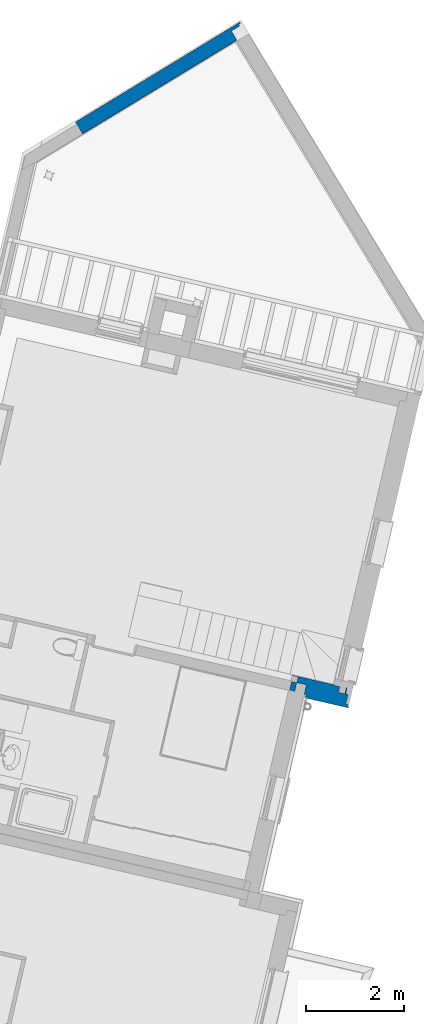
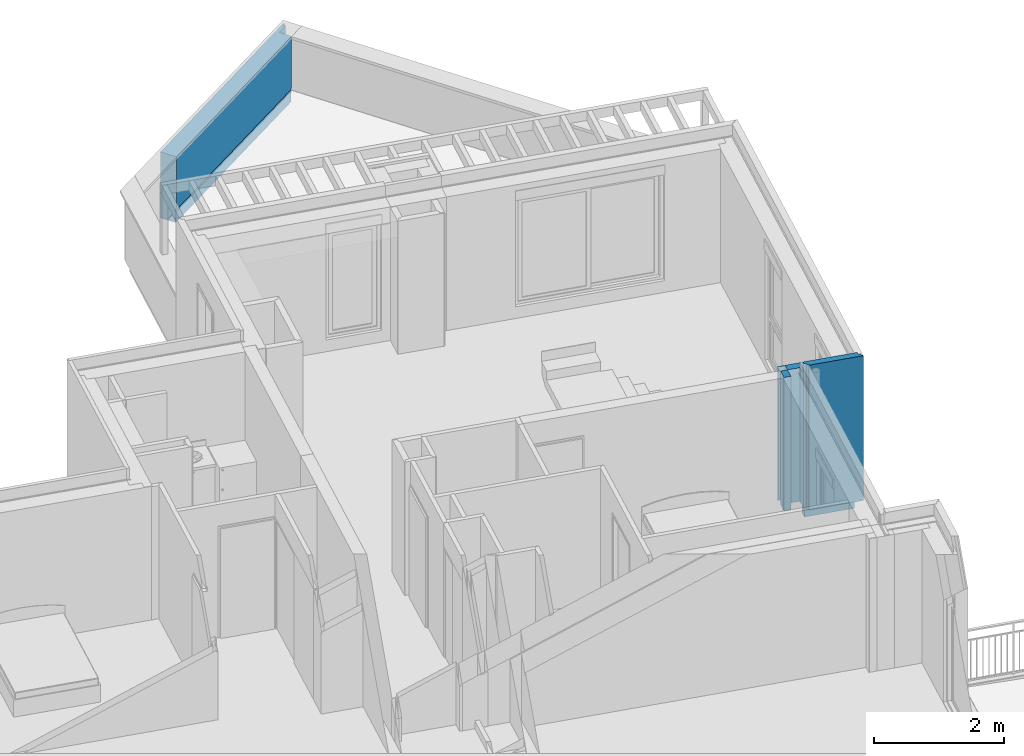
# One storey, part 35 of 62: 3 walls.
"""IFC2X3 building model written with IfcOpenShell, lengths in metres."""

import ifcopenshell
import ifcopenshell.guid

model = None  # the IFC model being written
_history = None  # IfcOwnerHistory: only IFC2X3 demands one
_inside = {}  # id of a spatial element -> (the spatial element, [elements in it])
_under = {}  # id of a project, library or spatial element -> (it, [spatial elements below it])
_declared = {}  # id of a project -> (the project, [libraries it declares])
_typed = {}  # id of a type object -> (the type object, [elements of that type])
_made_of = {}  # id of a material, layer set ... -> (it, [elements and type objects made of it])


def new_model(schema):
    """Start an empty IFC model of exactly this schema.

    Asked for "IFC4X3", IfcOpenShell would pick the latest addendum, in which some entities
    have other attributes; the version numbers below select the first issue.
    IFC2X3 requires an IfcOwnerHistory on every rooted entity: one is made here for all.
    """
    global model, _history
    if schema == "IFC4X3":
        model = ifcopenshell.file(schema_version=(4, 3, 0, 0))
    else:
        model = ifcopenshell.file(schema=schema)
    _inside.clear()
    _under.clear()
    _declared.clear()
    _typed.clear()
    _made_of.clear()
    _history = None
    if model.schema == "IFC2X3":
        org = make("IfcOrganization", Name="unknown")
        user = make(
            "IfcPersonAndOrganization",
            ThePerson=make("IfcPerson", FamilyName="unknown"),
            TheOrganization=org,
        )
        app = make(
            "IfcApplication",
            ApplicationDeveloper=org,
            Version="unknown",
            ApplicationFullName="unknown",
            ApplicationIdentifier="unknown",
        )
        _history = make(
            "IfcOwnerHistory",
            OwningUser=user,
            OwningApplication=app,
            ChangeAction="ADDED",
            CreationDate=0,
        )
    return model


def make(cls, **values):
    """One entity of the class cls with the attributes given. An attribute that is None is left unset."""
    return model.create_entity(
        cls, **{name: value for name, value in values.items() if value is not None}
    )


def entity(cls, *values):
    """Any entity or typed value of the class cls, its attributes in the order of the schema. None: left unset."""
    e = model.create_entity(cls)
    for i, value in enumerate(values):
        if value is not None:
            e[i] = value
    return e


def rooted(cls, **values):
    """An entity with a GlobalId (a new one), such as an element, a storey or a relation."""
    return make(cls, GlobalId=ifcopenshell.guid.new(), OwnerHistory=_history, **values)


def si_unit(unit_type, name, prefix=None):
    """IfcSIUnit, for example si_unit("LENGTHUNIT", "METRE", prefix="MILLI")."""
    return make("IfcSIUnit", UnitType=unit_type, Prefix=prefix, Name=name)


def converted_unit(unit_type, name, factor, base, dimensions=None, offset=None):
    """IfcConversionBasedUnit, such as the inch: factor (a typed value) times the base unit."""
    return make(
        "IfcConversionBasedUnit"
        if offset is None
        else "IfcConversionBasedUnitWithOffset",
        ConversionOffset=offset,
        Dimensions=None
        if dimensions is None
        else entity("IfcDimensionalExponents", *dimensions),
        UnitType=unit_type,
        Name=name,
        ConversionFactor=make(
            "IfcMeasureWithUnit", ValueComponent=factor, UnitComponent=base
        ),
    )


def derived_unit(unit_type, elements):
    """IfcDerivedUnit: a product of units, each with its exponent."""
    return make(
        "IfcDerivedUnit",
        Elements=[
            make("IfcDerivedUnitElement", Unit=unit, Exponent=power)
            for unit, power in elements
        ],
        UnitType=unit_type,
    )


def money_unit(currency):
    """IfcMonetaryUnit."""
    return make("IfcMonetaryUnit", Currency=currency)


def assignment(units):
    """IfcUnitAssignment: the units of a project."""
    return None if units is None else make("IfcUnitAssignment", Units=units)


def point(xyz):
    """IfcCartesianPoint."""
    return None if xyz is None else make("IfcCartesianPoint", Coordinates=xyz)


def direction(xyz):
    """IfcDirection."""
    return None if xyz is None else make("IfcDirection", DirectionRatios=xyz)


def frame(location, z_axis=None, x_axis=None):
    """IfcAxis2Placement3D, a coordinate frame: its origin and axes. An axis left out is left unset."""
    return make(
        "IfcAxis2Placement3D",
        Location=point(location),
        Axis=direction(z_axis),
        RefDirection=direction(x_axis),
    )


def origin_with_axes():
    """The frame at (0, 0, 0) with the z axis (0, 0, 1) and the x axis (1, 0, 0) written out."""
    return frame((0.0, 0.0, 0.0), z_axis=(0.0, 0.0, 1.0), x_axis=(1.0, 0.0, 0.0))


def place(relative_to, where):
    """IfcLocalPlacement: puts the frame where relative to a parent placement (None: the world)."""
    return make(
        "IfcLocalPlacement", PlacementRelTo=relative_to, RelativePlacement=where
    )


def context(
    kind, dimensions, precision=None, world=None, true_north=None, identifier=None
):
    """IfcGeometricRepresentationContext, for example the 3D "Model" context."""
    return make(
        "IfcGeometricRepresentationContext",
        ContextIdentifier=identifier,
        ContextType=kind,
        CoordinateSpaceDimension=dimensions,
        Precision=precision,
        WorldCoordinateSystem=world,
        TrueNorth=true_north,
    )


def subcontext(parent, identifier, kind, view, scale=None):
    """IfcGeometricRepresentationSubContext, for example "Body" below "Model"."""
    return make(
        "IfcGeometricRepresentationSubContext",
        ContextIdentifier=identifier,
        ContextType=kind,
        ParentContext=parent,
        TargetScale=scale,
        TargetView=view,
    )


def project(units=None, contexts=None):
    """IfcProject with its units and contexts."""
    return rooted(
        "IfcProject",
        Name="project",
        RepresentationContexts=contexts,
        UnitsInContext=assignment(units),
    )


def spatial(cls, under=None, at=None, **own):
    """A site, building, storey or space (cls), placed at a placement, below another one or the project."""
    s = rooted(cls, ObjectPlacement=at, **own)
    if under is not None:
        _under.setdefault(under.id(), (under, []))[1].append(s)
    return s


def faces_of(points, faces, orient=None, outer=None):
    """IfcFace entities. A face is a list of loops; a loop is a list of indices into points, from 0.

    orient and outer hold one flag for each loop. By default every Orientation is true, the
    first loop of a face is its IfcFaceOuterBound and the others are IfcFaceBound.
    """
    made = []
    for i, loops in enumerate(faces):
        bounds = []
        for j, loop in enumerate(loops):
            is_outer = j == 0 if outer is None else outer[i][j]
            bounds.append(
                make(
                    "IfcFaceOuterBound" if is_outer else "IfcFaceBound",
                    Bound=make("IfcPolyLoop", Polygon=[points[k] for k in loop]),
                    Orientation=True if orient is None else orient[i][j],
                )
            )
        made.append(make("IfcFace", Bounds=bounds))
    return made


def faceted_brep(points, faces, orient=None, outer=None, voids=None):
    """IfcFacetedBrep: a solid bounded by flat faces; with voids (closed shells), ...WithVoids."""
    shared = [point(p) for p in points]
    hull = make("IfcClosedShell", CfsFaces=faces_of(shared, faces, orient, outer))
    if voids is None:
        return make("IfcFacetedBrep", Outer=hull)
    return make(
        "IfcFacetedBrepWithVoids",
        Outer=hull,
        Voids=[
            make(cls, CfsFaces=faces_of(shared, fs, o, b)) for cls, fs, o, b in voids
        ],
    )


def shape(context_of_items, identifier, shape_type, items):
    """IfcShapeRepresentation: the items that make up one representation, for example the "Body"."""
    return make(
        "IfcShapeRepresentation",
        ContextOfItems=context_of_items,
        RepresentationIdentifier=identifier,
        RepresentationType=shape_type,
        Items=items,
    )


def material(Name=None, Category=None):
    """IfcMaterial."""
    return make("IfcMaterial", Name=Name, Category=Category)


def material_list(materials):
    """IfcMaterialList."""
    return make("IfcMaterialList", Materials=materials)


def made_of(thing, what):
    """Note that an element or type object is made of a material, layer set ...; save() writes the relation."""
    if what is not None:
        _made_of.setdefault(what.id(), (what, []))[1].append(thing)
    return thing


def type_object(cls, material=None, **own):
    """A type object (cls), such as IfcWallType, which elements share."""
    return made_of(rooted(cls, **own), material)


def element(
    cls,
    number,
    at=None,
    inside=None,
    cuts=None,
    type_object=None,
    material=None,
    context=None,
    identifier="Body",
    shape_type=None,
    held_by="IfcProductDefinitionShape",
    body=None,
    shapes=None,
    **own,
):
    """One element of the class cls, such as IfcWall. Its Tag is "e" and its number.

    at: its placement. inside: the storey or other place that contains it. cuts: it is an
    opening in that element (IfcRelVoidsElement). A single representation is given by context,
    identifier, shape_type and body (its items); several are given by shapes. held_by: the class
    of the entity that holds the representations. save() writes the other relations.
    """
    e = rooted(cls, Tag="e%d" % number, ObjectPlacement=at, **own)
    if body is not None:
        shapes = [shape(context, identifier, shape_type, body)]
    if shapes is not None:
        e.Representation = make(held_by, Representations=shapes)
    if inside is not None:
        _inside.setdefault(inside.id(), (inside, []))[1].append(e)
    if cuts is not None:
        rooted(
            "IfcRelVoidsElement", RelatingBuildingElement=cuts, RelatedOpeningElement=e
        )
    if type_object is not None:
        _typed.setdefault(type_object.id(), (type_object, []))[1].append(e)
    return made_of(e, material)


def aggregate(whole, parts):
    """IfcRelAggregates: a whole, such as a stair, and the parts it consists of."""
    return rooted("IfcRelAggregates", RelatingObject=whole, RelatedObjects=parts)


def save(model, path):
    """Write the relations noted so far, then the file.

    IfcRelAggregates (storeys below a building ...), IfcRelContainedInSpatialStructure (elements
    in a storey), IfcRelDefinesByType, IfcRelAssociatesMaterial and IfcRelDeclares: one each for
    every whole, place, type object, material and project.
    """
    for whole, parts in _under.values():
        aggregate(whole, parts)
    for where, things in _inside.values():
        rooted(
            "IfcRelContainedInSpatialStructure",
            RelatedElements=things,
            RelatingStructure=where,
        )
    for kind, things in _typed.values():
        rooted("IfcRelDefinesByType", RelatedObjects=things, RelatingType=kind)
    for what, things in _made_of.values():
        rooted("IfcRelAssociatesMaterial", RelatedObjects=things, RelatingMaterial=what)
    for by, libraries in _declared.values():
        rooted("IfcRelDeclares", RelatingContext=by, RelatedDefinitions=libraries)
    model.write(path)


model = new_model("IFC2X3")

# Units and contexts
model_context = context("Model", 3, precision=1e-05, world=origin_with_axes(), true_north=direction((0.0, 1.0)))
body_context = subcontext(model_context, "Body", "Model", "MODEL_VIEW")
ifc_project = project(units=[si_unit("LENGTHUNIT", "METRE"), si_unit("AREAUNIT", "SQUARE_METRE"), si_unit("VOLUMEUNIT", "CUBIC_METRE"), converted_unit("PLANEANGLEUNIT", "DEGREE", entity("IfcPlaneAngleMeasure", 0.0174532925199), si_unit("PLANEANGLEUNIT", "RADIAN"), dimensions=[0, 0, 0, 0, 0, 0, 0]), si_unit("SOLIDANGLEUNIT", "STERADIAN"), money_unit("EUR"), converted_unit("TIMEUNIT", "Year", entity("IfcTimeMeasure", 31556926.0), si_unit("TIMEUNIT", "SECOND"), dimensions=[0, 0, 1, 0, 0, 0, 0]), si_unit("MASSUNIT", "GRAM", prefix="KILO"), si_unit("THERMODYNAMICTEMPERATUREUNIT", "DEGREE_CELSIUS"), si_unit("LUMINOUSINTENSITYUNIT", "LUMEN"), si_unit("ENERGYUNIT", "JOULE", prefix="MEGA"), derived_unit("THERMALCONDUCTANCEUNIT", [(si_unit("POWERUNIT", "WATT"), 1), (si_unit("LENGTHUNIT", "METRE"), -1), (si_unit("THERMODYNAMICTEMPERATUREUNIT", "KELVIN"), -1)]), derived_unit("SPECIFICHEATCAPACITYUNIT", [(si_unit("ENERGYUNIT", "JOULE"), 1), (si_unit("MASSUNIT", "GRAM", prefix="KILO"), -1), (si_unit("THERMODYNAMICTEMPERATUREUNIT", "KELVIN"), -1)]), derived_unit("MASSDENSITYUNIT", [(si_unit("MASSUNIT", "GRAM", prefix="KILO"), 1), (si_unit("VOLUMEUNIT", "CUBIC_METRE"), -1)])], contexts=[model_context])

# Site, building, storey
site_placement = place(None, origin_with_axes())
site = spatial("IfcSite", under=ifc_project, at=site_placement, Name="Site", CompositionType="ELEMENT")
building_placement = place(site_placement, origin_with_axes())
building = spatial("IfcBuilding", under=site, at=building_placement, Name="Bâtiment", CompositionType="ELEMENT")
storey_placement = place(building_placement, frame((0.0, 0.0, 8.16), z_axis=(0.0, 0.0, 1.0), x_axis=(1.0, 0.0, 0.0)))
storey = spatial("IfcBuildingStorey", under=building, at=storey_placement, Name="R+3", CompositionType="ELEMENT", Elevation=8.16)

# Walls
ifc_material_1 = material(Name="Béton")
wall_type_1 = type_object("IfcWallType", Name="Béton 180", PredefinedType="USERDEFINED")
wall_1_placement = place(storey_placement, frame((-1.43218373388, 6.72415250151, 0.0), z_axis=(0.0, 0.0, 1.0), x_axis=(0.97438734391, -0.224876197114, 0.0)))
element("IfcWall", 1, at=wall_1_placement, inside=storey, type_object=wall_type_1, material=ifc_material_1, Name="M_Ext-009", ObjectType="SOLIDWALL", context=body_context, shape_type="Brep", body=[
    faceted_brep([(0.0, 0.0, 0.0), (0.0, 0.18, 0.0), (0.109999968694, 0.18, 0.0), (0.109999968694, 0.0, 0.0), (0.0, 0.0, 2.51), (0.0, 0.18, 2.51), (0.109999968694, 0.18, 2.51), (0.109999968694, 0.0, 2.51)], [[[0, 1, 2, 3]], [[4, 5, 1, 0]], [[1, 5, 6, 2]], [[7, 3, 2, 6]], [[4, 0, 3, 7]], [[5, 4, 7, 6]]]),
])
ifc_material_2 = material(Name="Finition int - Plaque de plâtre")
ifc_material_3 = material(Name="Isolation - Polystyrène extrudé")
ifc_material_4 = material(Name="Bloc ELITHERM")
ifc_material_5 = material(Name="Mortier")
ifc_material_6 = material(Name="Béton cellulaire")
ifc_material_7 = material(Name="Bois - Lattage")
ifc_material_8 = material(Name="Finition ext - Bardage bois")
ifc_material_list_1 = material_list([ifc_material_2, ifc_material_3, ifc_material_4, ifc_material_5, ifc_material_6, ifc_material_7, ifc_material_8])
wall_type_2 = type_object("IfcWallType", Name="Mur ALKERN + planelle 21 BARDAGE courant 395 x 2930", PredefinedType="USERDEFINED")
wall_2_placement = place(storey_placement, frame((-1.11213586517, 6.59897523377, -0.21), z_axis=(0.0, 0.0, 1.0), x_axis=(0.974387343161, -0.224876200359, 0.0)))
element("IfcWall", 2, at=wall_2_placement, inside=storey, type_object=wall_type_2, material=ifc_material_list_1, Name="Mue bloc ALKERN isolé", ObjectType="SOLIDWALL", context=body_context, shape_type="Brep", body=[
    faceted_brep([(0.525808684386, 0.350000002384, 0.210000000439), (0.525808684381, 0.359999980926, 0.210000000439), (0.525808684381, 0.359999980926, 2.72), (0.525808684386, 0.350000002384, 2.72), (0.0, 0.359999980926, 0.210000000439), (0.0, 0.350000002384, 0.210000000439), (-0.350000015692, 0.359999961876, 0.21), (-0.350000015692, 0.359999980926, 2.72), (-0.350000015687, 0.350000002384, 2.72), (-0.350000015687, 0.350000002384, 0.21)], [[[0, 1, 2, 3]], [[4, 1, 0, 5]], [[1, 4, 6, 7, 2]], [[8, 3, 2, 7]], [[5, 0, 3, 8, 9]], [[4, 5, 9, 6]], [[9, 8, 7, 6]]]),
    faceted_brep([(0.775905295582, 0.359999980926, 0.0), (0.775905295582, 0.359999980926, 0.210000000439), (0.777808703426, 0.359999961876, 0.209999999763), (0.777808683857, 0.359999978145, 0.0), (0.775905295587, 0.350000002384, 0.210000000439), (0.775905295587, 0.350000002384, 0.0), (0.777808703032, 0.350000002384, 0.209999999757), (0.777808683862, 0.350000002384, 0.0)], [[[0, 1, 2, 3]], [[4, 1, 0, 5]], [[1, 4, 6, 2]], [[3, 2, 6, 7]], [[5, 0, 3, 7]], [[4, 5, 7, 6]]]),
    faceted_brep([(0.645808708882, 0.230000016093, 0.210000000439), (0.645808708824, 0.350000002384, 0.210000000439), (0.645808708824, 0.350000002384, 2.71999999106), (0.645808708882, 0.230000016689, 2.71999999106), (0.0, 0.350000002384, 0.210000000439), (0.0, 0.230000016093, 0.210000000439), (-0.230000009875, 0.350000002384, 0.21), (-0.230000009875, 0.350000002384, 2.72), (-0.23000000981, 0.230000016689, 2.72), (-0.23000000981, 0.230000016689, 0.21)], [[[0, 1, 2, 3]], [[4, 1, 0, 5]], [[1, 4, 6, 7, 2]], [[8, 3, 2, 7]], [[5, 0, 3, 8, 9]], [[4, 5, 9, 6]], [[9, 8, 7, 6]]]),
    faceted_brep([(0.775905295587, 0.350000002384, 0.0), (0.775905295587, 0.350000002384, 0.210000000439), (0.797808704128, 0.350000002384, 0.209999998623), (0.797808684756, 0.350000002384, 0.00999999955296), (0.777808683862, 0.350000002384, 0.01), (0.777808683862, 0.350000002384, 0.0), (0.775905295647, 0.230000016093, 0.210000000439), (0.775905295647, 0.230000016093, 0.0), (0.797808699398, 0.230000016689, 0.209999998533), (0.797808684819, 0.230000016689, 0.00999999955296), (0.777808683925, 0.230000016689, 0.01), (0.777808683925, 0.230000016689, 0.0)], [[[0, 1, 2, 3, 4, 5]], [[6, 1, 0, 7]], [[1, 6, 8, 2]], [[9, 3, 2, 8]], [[4, 3, 9, 10]], [[11, 5, 4, 10]], [[7, 0, 5, 11]], [[6, 7, 11, 10, 9, 8]]]),
    faceted_brep([(0.797808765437, 0.03, 0.209999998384), (0.797808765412, 0.0779999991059, 0.20999999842), (0.797808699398, 0.230000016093, 0.209999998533), (0.845808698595, 0.230000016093, 0.209999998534), (0.845808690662, 0.03, 0.209999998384), (0.0, 0.03, 0.209999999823), (0.0, 0.0779999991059, 0.209999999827), (0.797808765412, 0.0779999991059, 0.00999999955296), (0.797808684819, 0.230000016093, 0.00999999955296), (0.777808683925, 0.230000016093, 0.01), (0.777808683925, 0.230000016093, 0.0), (0.0, 0.230000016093, 0.0), (0.0, 0.230000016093, 0.209999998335), (-0.0300000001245, 0.230000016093, 0.21), (-0.0300000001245, 0.230000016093, 2.71999999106), (0.845808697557, 0.230000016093, 2.71999999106), (0.845808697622, 0.0980000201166, 2.71999999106), (0.845808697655, 0.03, 2.71999999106), (-0.0300000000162, 0.03, 2.71999999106), (-0.0300000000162, 0.03, 0.21), (0.0, 0.0779999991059, 0.00999998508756), (0.777808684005, 0.0779999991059, 0.00999999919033), (0.777808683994, 0.098, 0.00999999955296), (0.777808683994, 0.098, -1.52986956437e-10), (0.0, 0.098, 4.21769463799e-09), (0.0, 0.098, 0.00999998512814), (-0.030000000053, 0.0980000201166, 2.71999999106)], [[[0, 1, 2, 3, 4]], [[1, 0, 5, 6]], [[1, 7, 8, 2]], [[2, 8, 9, 10, 11, 12, 13, 14, 15, 3]], [[4, 3, 15, 16, 17]], [[5, 0, 4, 17, 18, 19]], [[6, 5, 19, 13, 12]], [[7, 1, 6, 20, 21]], [[7, 21, 22, 9, 8]], [[22, 23, 10, 9]], [[23, 24, 11, 10]], [[20, 6, 12, 11, 24, 25]], [[26, 14, 13, 19, 18]], [[16, 15, 14, 26]], [[17, 16, 26, 18]], [[21, 20, 25, 22]], [[23, 22, 25, 24]]]),
    faceted_brep([(0.845808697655, 0.03, 2.72999999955), (0.845808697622, 0.098, 2.72999999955), (-0.030000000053, 0.098, 2.73), (-0.0300000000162, 0.03, 2.73), (0.845808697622, 0.098, 2.71999999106), (0.845808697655, 0.03, 2.71999999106), (-0.030000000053, 0.098, 2.72), (-0.0300000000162, 0.03, 2.72)], [[[0, 1, 2, 3]], [[4, 1, 0, 5]], [[1, 4, 6, 2]], [[3, 2, 6, 7]], [[5, 0, 3, 7]], [[4, 5, 7, 6]]]),
    faceted_brep([(0.845808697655, 0.03, 2.93), (0.845808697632, 0.0779999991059, 2.93), (-0.0300000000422, 0.0779999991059, 2.93), (-0.0300000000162, 0.03, 2.93), (0.845808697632, 0.0779999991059, 2.72999999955), (0.845808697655, 0.03, 2.72999999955), (-0.0300000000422, 0.0779999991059, 2.72999999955), (-0.0300000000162, 0.03, 2.72999999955)], [[[0, 1, 2, 3]], [[4, 1, 0, 5]], [[1, 4, 6, 2]], [[3, 2, 6, 7]], [[5, 0, 3, 7]], [[4, 5, 7, 6]]]),
    faceted_brep([(0.00999999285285, -0.00999998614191, 2.93), (0.885808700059, -0.00999998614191, 2.93), (0.88580870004, 0.0300000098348, 2.93), (0.0099999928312, 0.0300000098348, 2.93), (0.885808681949, -0.00999998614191, 0.209999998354), (0.00999999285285, -0.00999999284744, 0.209999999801), (0.797808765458, -0.00999999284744, 0.209999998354), (0.885808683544, 0.0300000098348, 0.209999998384), (0.797808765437, 0.0300000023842, 0.209999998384), (0.0099999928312, 0.0300000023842, 0.209999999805)], [[[0, 1, 2, 3]], [[4, 1, 0, 5, 6]], [[7, 2, 1, 4]], [[3, 2, 7, 8, 9]], [[5, 0, 3, 9]], [[4, 6, 5, 9, 8, 7]]]),
    faceted_brep([(0.0350000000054, -0.01, 2.93), (0.910808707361, -0.01, 2.93), (0.910808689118, -0.01, 0.209999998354), (0.797808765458, -0.01, 0.209999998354), (0.0350000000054, -0.01, 0.209999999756), (0.0350000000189, -0.035, 2.93), (0.910808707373, -0.035, 2.93), (0.910808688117, -0.0349999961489, 0.209999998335), (0.797808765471, -0.0349999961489, 0.209999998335), (0.0350000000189, -0.0349999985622, 0.209999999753)], [[[0, 1, 2, 3, 4]], [[1, 0, 5, 6]], [[6, 7, 2, 1]], [[7, 8, 9, 4, 3, 2]], [[9, 5, 0, 4]], [[6, 5, 9, 8, 7]]]),
])
ifc_material_9 = material(Name="Etanchéité - Bitume")
ifc_material_10 = material(Name="Finition ext - Crépis")
ifc_material_11 = material(Name="Métal - Aluminium")
ifc_material_list_2 = material_list([ifc_material_8, ifc_material_7, ifc_material_1, ifc_material_9, ifc_material_10, ifc_material_11])
wall_type_3 = type_object("IfcWallType", Name="Acrotère plancher 21 isolée TERR ACCE BARDAGE BOIS 285 x 1240", PredefinedType="USERDEFINED")
wall_3_placement = place(storey_placement, frame((-5.80922206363, 18.3331760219, 0.0), z_axis=(0.0, 0.0, 1.0), x_axis=(0.854539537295, 0.519386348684, 0.0)))
element("IfcWall", 3, at=wall_3_placement, inside=storey, type_object=wall_type_3, material=ifc_material_list_2, Name="Muret béton 20cm", ObjectType="PARAPET", context=body_context, shape_type="Brep", body=[
    faceted_brep([(3.93122724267, -0.025, 1.24), (0.0, -0.025, 1.24), (0.0, -0.025, 0.0), (3.93122724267, -0.025, 0.0), (3.93122724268, 0.0, 1.24), (0.0, 0.0, 1.24), (0.0, 0.0, 0.0), (3.93122724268, 0.0, 0.0)], [[[0, 1, 2, 3]], [[1, 0, 4, 5]], [[1, 5, 6, 2]], [[6, 7, 3, 2]], [[7, 4, 0, 3]], [[5, 4, 7, 6]]]),
    faceted_brep([(3.89122725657, -0.065, 1.24), (0.0, -0.065, 1.24), (0.0, -0.065, 0.0), (3.89122725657, -0.065, 0.0), (3.89122725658, -0.025, 1.24), (0.0, -0.025, 1.24), (0.0, -0.025, 0.0), (3.89122725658, -0.025, 0.0)], [[[0, 1, 2, 3]], [[1, 0, 4, 5]], [[2, 1, 5, 6]], [[6, 7, 3, 2]], [[7, 4, 0, 3]], [[5, 4, 7, 6]]]),
    faceted_brep([(3.69122723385, -0.265, 0.228976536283), (3.69122723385, -0.265, 1.24), (0.0, -0.265, 1.24), (0.0, -0.265, 0.228976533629), (3.6912272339, -0.065, 0.100000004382), (3.6912272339, -0.065, 1.24), (3.69122723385, -0.265, 0.220000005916), (3.69122723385, -0.265, 0.100000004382), (0.0, -0.065, 1.24), (0.0, -0.265, 0.22), (0.0, -0.065, 0.0), (0.0, -0.265, 0.0), (0.0, -0.265, 0.1), (3.6912272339, -0.065, 0.0), (3.69122723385, -0.265, 0.0)], [[[0, 1, 2, 3]], [[4, 5, 1, 0, 6, 7]], [[2, 1, 5, 8]], [[9, 3, 2, 8, 10, 11, 12]], [[9, 6, 0, 3]], [[8, 5, 4, 13, 10]], [[7, 6, 9, 12]], [[13, 4, 7, 14]], [[10, 13, 14, 11]], [[11, 14, 7, 12]]]),
    faceted_brep([(0.0, -0.275, 0.11), (3.68122724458, -0.275, 0.11), (3.68122724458, -0.275, 0.220000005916), (0.0, -0.275, 0.22), (3.68122724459, -0.265000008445, 0.11), (0.0, -0.265000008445, 0.11), (3.68122724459, -0.265, 0.220000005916), (0.0, -0.265, 0.22)], [[[0, 1, 2, 3]], [[4, 1, 0, 5]], [[1, 4, 6, 2]], [[3, 2, 6, 7]], [[5, 0, 3, 7]], [[4, 5, 7, 6]]]),
    faceted_brep([(3.67622723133, -0.28, 0.267041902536), (3.67622723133, -0.28, 1.24), (0.0, -0.28, 1.24), (0.0, -0.28, 0.267041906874), (3.67622723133, -0.265, 1.24), (3.67622723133, -0.266045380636, 0.267041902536), (3.67622723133, -0.265, 0.267041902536), (0.0, -0.265, 1.24), (0.0, -0.266045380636, 0.267041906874), (0.0, -0.265, 0.267041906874)], [[[0, 1, 2, 3]], [[4, 1, 0, 5, 6]], [[1, 4, 7, 2]], [[8, 3, 2, 7, 9]], [[5, 0, 3, 8]], [[6, 5, 8, 9]], [[4, 6, 9, 7]]]),
    faceted_brep([(3.69018184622, -0.266045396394, 0.230023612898), (3.69018184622, -0.266045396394, 0.267041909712), (0.0, -0.266045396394, 0.267041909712), (0.0, -0.266045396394, 0.230023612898), (3.69018184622, -0.265, 0.267041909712), (3.69018184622, -0.265, 0.230023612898), (0.0, -0.265, 0.267041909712), (0.0, -0.284250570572, 0.192882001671), (0.0, -0.285484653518, 0.192882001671), (0.0, -0.285484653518, 0.222179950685), (0.0, -0.265, 0.228976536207), (0.0, -0.284250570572, 0.221101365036), (3.68758683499, -0.268640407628, 0.228976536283), (3.67074258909, -0.285484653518, 0.222179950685), (3.68758683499, -0.265, 0.228976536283), (3.67074258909, -0.284250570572, 0.192882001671), (3.67074258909, -0.285484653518, 0.192882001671), (3.67074258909, -0.285484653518, 0.220000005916), (3.67074258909, -0.281614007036, 0.222179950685), (3.67074258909, -0.284250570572, 0.22110137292), (3.67074258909, -0.284250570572, 0.220000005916)], [[[0, 1, 2, 3]], [[4, 1, 0, 5]], [[1, 4, 6, 2]], [[7, 8, 9, 3, 2, 6, 10, 11]], [[12, 0, 3, 9, 13]], [[0, 12, 14, 5]], [[5, 14, 10, 6, 4]], [[15, 16, 8, 7]], [[17, 13, 9, 8, 16]], [[18, 19, 11, 10, 14]], [[19, 20, 15, 7, 11]], [[14, 12, 13, 18]], [[20, 17, 16, 15]], [[13, 17, 20, 19, 18]]]),
])

save(model, "model.ifc")
